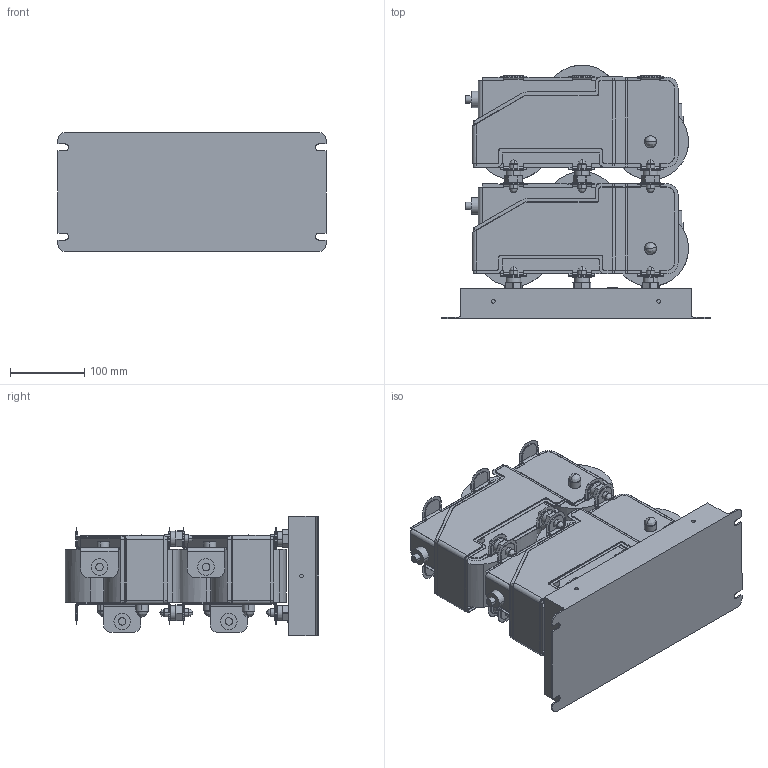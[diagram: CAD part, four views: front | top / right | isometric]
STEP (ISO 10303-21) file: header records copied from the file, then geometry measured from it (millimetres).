
FILE_DESCRIPTION (( 'STEP AP214' ), '1' );
FILE_NAME ('00Z2G24-A241.STEP', '2026-08-07T10:15:22', ( '' ), ( '' ), 'SwSTEP 2.0', 'SolidWorks 2025', '' );
FILE_SCHEMA (( 'AUTOMOTIVE_DESIGN' ));
Length unit declared in the file: millimetre
Products named in the file (3): Kundenmodell^10085229_000; 10014308_000; 00Z2G24-A241
Assembly tree (2 placements, depth 2):
  00Z2G24-A241
    Kundenmodell^10085229_000
    10014308_000
Bounding box: 360 x 340.41 x 160 mm (x, y, z)
Volume: 6086271.6 mm3; surface area: 676741.3 mm2
Topology: 2 solids, 6 shells, 3322 faces, 8397 edges, 5084 vertices
Faces by surface type: cylinder 1559, plane 958, torus 584, bspline 127, cone 76, sphere 18
Entity records: 102169 total; most frequent: CARTESIAN_POINT 21091, DIRECTION 18187, ORIENTED_EDGE 16670, EDGE_CURVE 8335, AXIS2_PLACEMENT_3D 7048, VERTEX_POINT 5084, VECTOR 4091, LINE 4091
